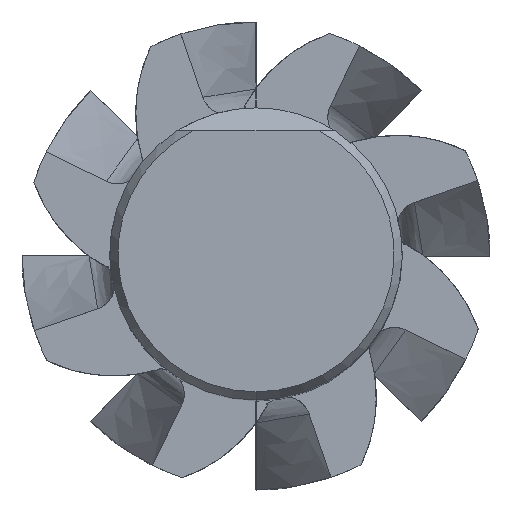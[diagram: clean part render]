
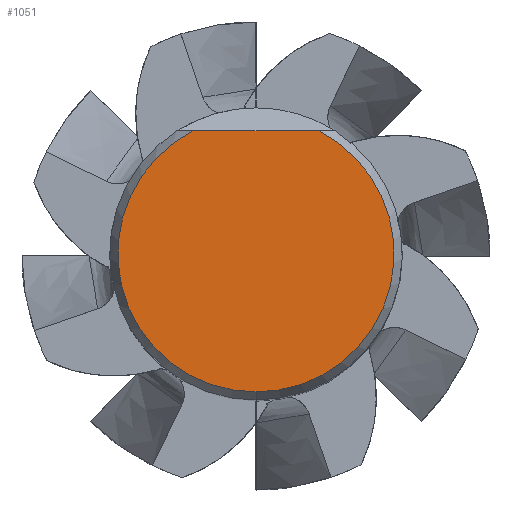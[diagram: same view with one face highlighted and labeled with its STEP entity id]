
A CAD part, top view. The second image highlights one B-rep face of the part: STEP entity #1051.
In plain terms, the highlighted planar face has unit normal (0, 0, 1).
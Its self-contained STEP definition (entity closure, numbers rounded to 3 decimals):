
#1051=ADVANCED_FACE('',(#2624),#2625,.T.);
#1275=VERTEX_POINT('',#2865);
#1379=EDGE_CURVE('',#2253,#1275,#2977,.T.);
#1473=EDGE_CURVE('',#2253,#2059,#3083,.T.);
#1571=EDGE_CURVE('',#2059,#1275,#3190,.T.);
#2059=VERTEX_POINT('',#3722);
#2253=VERTEX_POINT('',#3936);
#2624=FACE_OUTER_BOUND('',#7288,.T.);
#2625=PLANE('',#7289);
#2865=CARTESIAN_POINT('',(-5.4,10.5,0.0));
#2977=LINE('',#10546,#10547);
#3083=CIRCLE('',#11597,11.807);
#3190=CIRCLE('',#12987,11.807);
#3722=CARTESIAN_POINT('',(0.,-11.807,0.0));
#3936=CARTESIAN_POINT('',(5.4,10.5,0.0));
#7288=EDGE_LOOP('',(#21587,#21588,#21589));
#7289=AXIS2_PLACEMENT_3D('',#21590,#21591,#21592);
#10546=CARTESIAN_POINT('',(-6.25,10.5,0.0));
#10547=VECTOR('',#21842,1.0);
#11597=AXIS2_PLACEMENT_3D('',#21947,#21948,#21949);
#12987=AXIS2_PLACEMENT_3D('',#22017,#22018,#22019);
#21587=ORIENTED_EDGE('',*,*,#1379,.T.);
#21588=ORIENTED_EDGE('',*,*,#1571,.F.);
#21589=ORIENTED_EDGE('',*,*,#1473,.F.);
#21590=CARTESIAN_POINT('',(0.0,5.904,0.0));
#21591=DIRECTION('',(-0.0,0.0,1.0));
#21592=DIRECTION('',(0.0,-1.0,0.0));
#21842=DIRECTION('',(-1.0,0.0,0.0));
#21947=CARTESIAN_POINT('',(0.0,0.0,0.0));
#21948=DIRECTION('',(0.0,0.0,-1.0));
#21949=DIRECTION('',(0.0,1.0,0.0));
#22017=CARTESIAN_POINT('',(0.0,0.0,0.0));
#22018=DIRECTION('',(0.0,0.0,-1.0));
#22019=DIRECTION('',(0.0,1.0,0.0));
